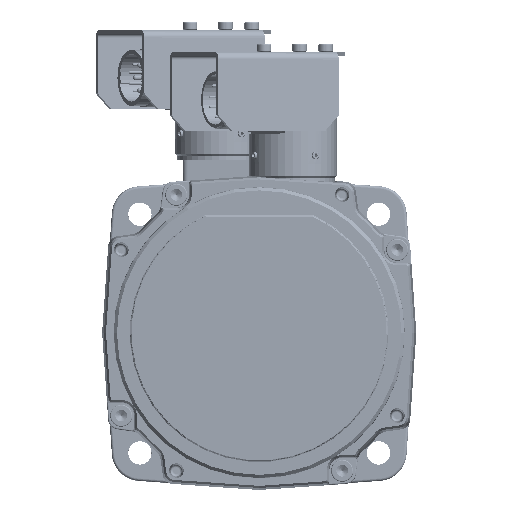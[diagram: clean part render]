
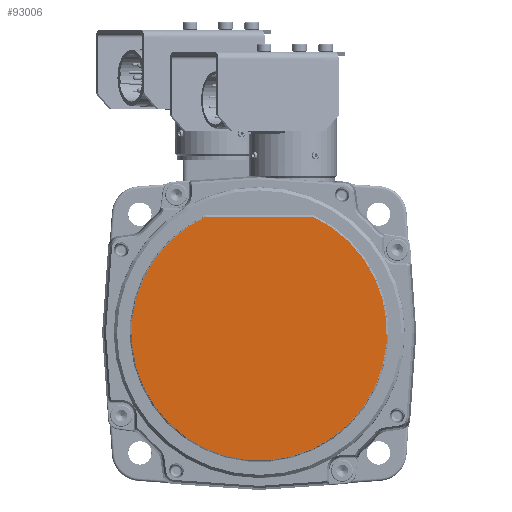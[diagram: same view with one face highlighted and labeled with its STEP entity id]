
A CAD part, top view. The second image highlights one B-rep face of the part: STEP entity #93006.
In plain terms, the highlighted planar face has unit normal (0, 0, 1).
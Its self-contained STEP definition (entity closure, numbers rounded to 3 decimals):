
#85578=CARTESIAN_POINT('',(0.,0.,63.9));
#85579=DIRECTION('',(0.,0.,-1.));
#85580=DIRECTION('',(0.418,0.908,0.));
#85581=AXIS2_PLACEMENT_3D('',#85578,#85579,#85580);
#85590=DIRECTION('',(-1.,0.,0.));
#85591=VECTOR('',#85590,41.125);
#85592=CARTESIAN_POINT('',(20.562,44.7,63.9));
#85593=LINE('',#85592,#85591);
#86254=CARTESIAN_POINT('',(20.562,44.7,63.9));
#86255=CARTESIAN_POINT('',(-20.562,44.7,63.9));
#86256=VERTEX_POINT('',#86254);
#86257=VERTEX_POINT('',#86255);
#92997=CARTESIAN_POINT('',(0.,0.,63.9));
#92998=DIRECTION('',(0.,0.,1.));
#92999=DIRECTION('',(1.,0.,0.));
#93000=AXIS2_PLACEMENT_3D('',#92997,#92998,#92999);
#93001=PLANE('',#93000);
#93002=ORIENTED_EDGE('',*,*,#92976,.T.);
#93003=ORIENTED_EDGE('',*,*,#92988,.F.);
#93004=EDGE_LOOP('',(#93002,#93003));
#93005=FACE_OUTER_BOUND('',#93004,.F.);
#93006=ADVANCED_FACE('',(#93005),#93001,.T.);
#85582=CIRCLE('',#85581,49.203);
#92976=EDGE_CURVE('',#86256,#86257,#85582,.T.);
#92988=EDGE_CURVE('',#86256,#86257,#85593,.T.);
